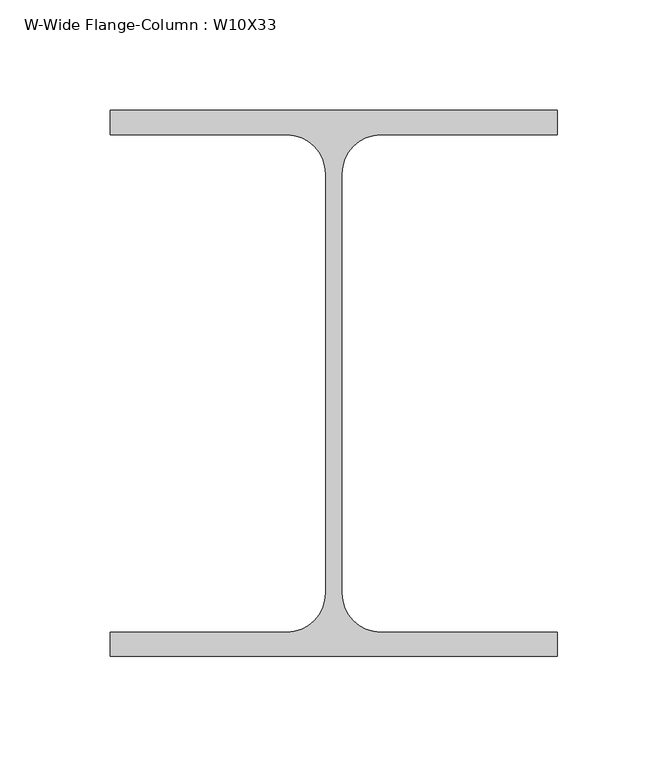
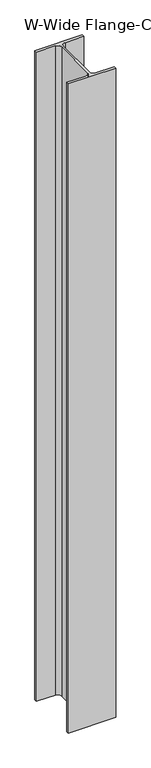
"""IFC4 building model written with IfcOpenShell, lengths in millimetres: column geometry, W-Wide Flange-Column : W10X33."""

import ifcopenshell
import ifcopenshell.guid

model = None  # the IFC model being written
_history = None  # IfcOwnerHistory: only IFC2X3 demands one
_inside = {}  # id of a spatial element -> (the spatial element, [elements in it])
_under = {}  # id of a project, library or spatial element -> (it, [spatial elements below it])
_declared = {}  # id of a project -> (the project, [libraries it declares])
_typed = {}  # id of a type object -> (the type object, [elements of that type])
_made_of = {}  # id of a material, layer set ... -> (it, [elements and type objects made of it])


def new_model(schema):
    """Start an empty IFC model of exactly this schema.

    Asked for "IFC4X3", IfcOpenShell would pick the latest addendum, in which some entities
    have other attributes; the version numbers below select the first issue.
    IFC2X3 requires an IfcOwnerHistory on every rooted entity: one is made here for all.
    """
    global model, _history
    if schema == "IFC4X3":
        model = ifcopenshell.file(schema_version=(4, 3, 0, 0))
    else:
        model = ifcopenshell.file(schema=schema)
    _inside.clear()
    _under.clear()
    _declared.clear()
    _typed.clear()
    _made_of.clear()
    _history = None
    if model.schema == "IFC2X3":
        org = make("IfcOrganization", Name="unknown")
        user = make(
            "IfcPersonAndOrganization",
            ThePerson=make("IfcPerson", FamilyName="unknown"),
            TheOrganization=org,
        )
        app = make(
            "IfcApplication",
            ApplicationDeveloper=org,
            Version="unknown",
            ApplicationFullName="unknown",
            ApplicationIdentifier="unknown",
        )
        _history = make(
            "IfcOwnerHistory",
            OwningUser=user,
            OwningApplication=app,
            ChangeAction="ADDED",
            CreationDate=0,
        )
    return model


def make(cls, **values):
    """One entity of the class cls with the attributes given. An attribute that is None is left unset."""
    return model.create_entity(
        cls, **{name: value for name, value in values.items() if value is not None}
    )


def rooted(cls, **values):
    """An entity with a GlobalId (a new one), such as an element, a storey or a relation."""
    return make(cls, GlobalId=ifcopenshell.guid.new(), OwnerHistory=_history, **values)


def si_unit(unit_type, name, prefix=None):
    """IfcSIUnit, for example si_unit("LENGTHUNIT", "METRE", prefix="MILLI")."""
    return make("IfcSIUnit", UnitType=unit_type, Prefix=prefix, Name=name)


def assignment(units):
    """IfcUnitAssignment: the units of a project."""
    return None if units is None else make("IfcUnitAssignment", Units=units)


def point(xyz):
    """IfcCartesianPoint."""
    return None if xyz is None else make("IfcCartesianPoint", Coordinates=xyz)


def direction(xyz):
    """IfcDirection."""
    return None if xyz is None else make("IfcDirection", DirectionRatios=xyz)


def frame(location, z_axis=None, x_axis=None):
    """IfcAxis2Placement3D, a coordinate frame: its origin and axes. An axis left out is left unset."""
    return make(
        "IfcAxis2Placement3D",
        Location=point(location),
        Axis=direction(z_axis),
        RefDirection=direction(x_axis),
    )


def frame_2d(location, x_axis=None):
    """IfcAxis2Placement2D, a coordinate frame in the plane: its origin and x axis."""
    return make(
        "IfcAxis2Placement2D", Location=point(location), RefDirection=direction(x_axis)
    )


def origin():
    """The frame at (0, 0, 0) with its axes left unset."""
    return frame((0.0, 0.0, 0.0))


def origin_with_axes():
    """The frame at (0, 0, 0) with the z axis (0, 0, 1) and the x axis (1, 0, 0) written out."""
    return frame((0.0, 0.0, 0.0), z_axis=(0.0, 0.0, 1.0), x_axis=(1.0, 0.0, 0.0))


def place(relative_to, where):
    """IfcLocalPlacement: puts the frame where relative to a parent placement (None: the world)."""
    return make(
        "IfcLocalPlacement", PlacementRelTo=relative_to, RelativePlacement=where
    )


def context(
    kind, dimensions, precision=None, world=None, true_north=None, identifier=None
):
    """IfcGeometricRepresentationContext, for example the 3D "Model" context."""
    return make(
        "IfcGeometricRepresentationContext",
        ContextIdentifier=identifier,
        ContextType=kind,
        CoordinateSpaceDimension=dimensions,
        Precision=precision,
        WorldCoordinateSystem=world,
        TrueNorth=true_north,
    )


def project(units=None, contexts=None):
    """IfcProject with its units and contexts."""
    return rooted(
        "IfcProject",
        Name="project",
        RepresentationContexts=contexts,
        UnitsInContext=assignment(units),
    )


def spatial(cls, under=None, at=None, **own):
    """A site, building, storey or space (cls), placed at a placement, below another one or the project."""
    s = rooted(cls, ObjectPlacement=at, **own)
    if under is not None:
        _under.setdefault(under.id(), (under, []))[1].append(s)
    return s


def polyline(points):
    """IfcPolyline through the points."""
    return make("IfcPolyline", Points=[point(p) for p in points])


def circle_curve(where, radius):
    """IfcCircle in the frame where."""
    return make("IfcCircle", Position=where, Radius=radius)


def trimmed(basis, trim1, trim2, sense, master):
    """IfcTrimmedCurve: the piece of a basis curve between two trims."""
    return make(
        "IfcTrimmedCurve",
        BasisCurve=basis,
        Trim1=trim1,
        Trim2=trim2,
        SenseAgreement=sense,
        MasterRepresentation=master,
    )


def segment(curve, same_sense, transition):
    """IfcCompositeCurveSegment."""
    return make(
        "IfcCompositeCurveSegment",
        Transition=transition,
        SameSense=same_sense,
        ParentCurve=curve,
    )


def composite_curve(segments, self_intersect=None):
    """IfcCompositeCurve: segments joined end to end."""
    return make("IfcCompositeCurve", Segments=segments, SelfIntersect=self_intersect)


def outline(outer, holes=None, kind="AREA"):
    """IfcArbitraryClosedProfileDef: a profile drawn as a closed curve; with holes, ...WithVoids."""
    if holes is None:
        return make("IfcArbitraryClosedProfileDef", ProfileType=kind, OuterCurve=outer)
    return make(
        "IfcArbitraryProfileDefWithVoids",
        ProfileType=kind,
        OuterCurve=outer,
        InnerCurves=holes,
    )


def extrude(swept, where, along, depth):
    """IfcExtrudedAreaSolid: the profile swept, set in the frame where, extruded along a direction by depth."""
    return make(
        "IfcExtrudedAreaSolid",
        SweptArea=swept,
        Position=where,
        ExtrudedDirection=direction(along),
        Depth=depth,
    )


def shape(context_of_items, identifier, shape_type, items):
    """IfcShapeRepresentation: the items that make up one representation, for example the "Body"."""
    return make(
        "IfcShapeRepresentation",
        ContextOfItems=context_of_items,
        RepresentationIdentifier=identifier,
        RepresentationType=shape_type,
        Items=items,
    )


def source(mapping_origin, context_of_items, identifier, shape_type, items):
    """IfcRepresentationMap: a shape defined once, which mapped items show again and again."""
    return make(
        "IfcRepresentationMap",
        MappingOrigin=mapping_origin,
        MappedRepresentation=shape(context_of_items, identifier, shape_type, items),
    )


def transform(
    local_origin,
    x_axis=None,
    y_axis=None,
    z_axis=None,
    scale=None,
    scale2=None,
    scale3=None,
    uniform=True,
):
    """IfcCartesianTransformationOperator3D, or its non-uniform kind. x_axis, y_axis, z_axis: its Axis1, 2, 3."""
    if uniform:
        return make(
            "IfcCartesianTransformationOperator3D",
            Axis1=direction(x_axis),
            Axis2=direction(y_axis),
            LocalOrigin=point(local_origin),
            Scale=scale,
            Axis3=direction(z_axis),
        )
    return make(
        "IfcCartesianTransformationOperator3DnonUniform",
        Axis1=direction(x_axis),
        Axis2=direction(y_axis),
        LocalOrigin=point(local_origin),
        Scale=scale,
        Axis3=direction(z_axis),
        Scale2=scale2,
        Scale3=scale3,
    )


def mapped(mapping_source, mapping_target):
    """IfcMappedItem: shows the shape of a source again, moved by a transform."""
    return make(
        "IfcMappedItem", MappingSource=mapping_source, MappingTarget=mapping_target
    )


def made_of(thing, what):
    """Note that an element or type object is made of a material, layer set ...; save() writes the relation."""
    if what is not None:
        _made_of.setdefault(what.id(), (what, []))[1].append(thing)
    return thing


def element(
    cls,
    number,
    at=None,
    inside=None,
    cuts=None,
    type_object=None,
    material=None,
    context=None,
    identifier="Body",
    shape_type=None,
    held_by="IfcProductDefinitionShape",
    body=None,
    shapes=None,
    **own,
):
    """One element of the class cls, such as IfcWall. Its Tag is "e" and its number.

    at: its placement. inside: the storey or other place that contains it. cuts: it is an
    opening in that element (IfcRelVoidsElement). A single representation is given by context,
    identifier, shape_type and body (its items); several are given by shapes. held_by: the class
    of the entity that holds the representations. save() writes the other relations.
    """
    e = rooted(cls, Tag="e%d" % number, ObjectPlacement=at, **own)
    if body is not None:
        shapes = [shape(context, identifier, shape_type, body)]
    if shapes is not None:
        e.Representation = make(held_by, Representations=shapes)
    if inside is not None:
        _inside.setdefault(inside.id(), (inside, []))[1].append(e)
    if cuts is not None:
        rooted(
            "IfcRelVoidsElement", RelatingBuildingElement=cuts, RelatedOpeningElement=e
        )
    if type_object is not None:
        _typed.setdefault(type_object.id(), (type_object, []))[1].append(e)
    return made_of(e, material)


def aggregate(whole, parts):
    """IfcRelAggregates: a whole, such as a stair, and the parts it consists of."""
    return rooted("IfcRelAggregates", RelatingObject=whole, RelatedObjects=parts)


def save(model, path):
    """Write the relations noted so far, then the file.

    IfcRelAggregates (storeys below a building ...), IfcRelContainedInSpatialStructure (elements
    in a storey), IfcRelDefinesByType, IfcRelAssociatesMaterial and IfcRelDeclares: one each for
    every whole, place, type object, material and project.
    """
    for whole, parts in _under.values():
        aggregate(whole, parts)
    for where, things in _inside.values():
        rooted(
            "IfcRelContainedInSpatialStructure",
            RelatedElements=things,
            RelatingStructure=where,
        )
    for kind, things in _typed.values():
        rooted("IfcRelDefinesByType", RelatedObjects=things, RelatingType=kind)
    for what, things in _made_of.values():
        rooted("IfcRelAssociatesMaterial", RelatedObjects=things, RelatingMaterial=what)
    for by, libraries in _declared.values():
        rooted("IfcRelDeclares", RelatingContext=by, RelatedDefinitions=libraries)
    model.write(path)


def w_wide_flange_column_w10x33_dc02cfa5(model_context):
    return source(origin(), model_context, "Body", "SweptSolid", [
        extrude(outline(composite_curve([segment(polyline([(101.1039062, 123.5769531), (101.1039062, 112.5636719), (21.2328125, 112.5636719)]), True, "CONTINUOUS"), segment(trimmed(circle_curve(frame_2d((21.2328125, 95.0019531)), 17.5617188), [point((21.2328125, 112.5636719))], [point((3.6710937, 95.0019531))], True, "CARTESIAN"), True, "CONTINUOUS"), segment(polyline([(3.6710937, 95.0019531), (3.6710937, -95.0019531)]), True, "CONTINUOUS"), segment(trimmed(circle_curve(frame_2d((21.2328125, -95.0019531)), 17.5617188), [point((3.6710937, -95.0019531))], [point((21.2328125, -112.5636719))], True, "CARTESIAN"), True, "CONTINUOUS"), segment(polyline([(21.2328125, -112.5636719), (101.1039062, -112.5636719), (101.1039062, -123.5769531), (-101.1039063, -123.5769531), (-101.1039063, -112.5636719), (-21.2328125, -112.5636719)]), True, "CONTINUOUS"), segment(trimmed(circle_curve(frame_2d((-21.2328125, -95.0019531)), 17.5617188), [point((-21.2328125, -112.5636719))], [point((-3.6710938, -95.0019531))], True, "CARTESIAN"), True, "CONTINUOUS"), segment(polyline([(-3.6710938, -95.0019531), (-3.6710938, 95.0019531)]), True, "CONTINUOUS"), segment(trimmed(circle_curve(frame_2d((-21.2328125, 95.0019531)), 17.5617188), [point((-3.6710938, 95.0019531))], [point((-21.2328125, 112.5636719))], True, "CARTESIAN"), True, "CONTINUOUS"), segment(polyline([(-21.2328125, 112.5636719), (-101.1039063, 112.5636719), (-101.1039063, 123.5769531), (101.1039062, 123.5769531)]), True, "CONTINUOUS")], self_intersect=False)), origin_with_axes(), (0.0, 0.0, 1.0), 2921.0),
    ])


if __name__ == "__main__":
    model = new_model("IFC4")
    model_context = context("Model", 3, world=origin())
    ifc_project = project(units=[si_unit("LENGTHUNIT", "METRE", prefix="MILLI")], contexts=[model_context])
    site = spatial("IfcSite", under=ifc_project)
    building = spatial("IfcBuilding", under=site)
    placement = place(None, origin())
    w_wide_flange_column_w10x33_shape = w_wide_flange_column_w10x33_dc02cfa5(model_context)
    element("IfcColumn", 1, ObjectType="W-Wide Flange-Column : W10X33", at=placement, inside=building, context=model_context, shape_type="MappedRepresentation", body=[
        mapped(w_wide_flange_column_w10x33_shape, transform((0.0, 0.0, 0.0), x_axis=(1.0, 0.0, 0.0), y_axis=(0.0, 1.0, 0.0), z_axis=(0.0, 0.0, 1.0))),
    ])
    save(model, "model.ifc")
